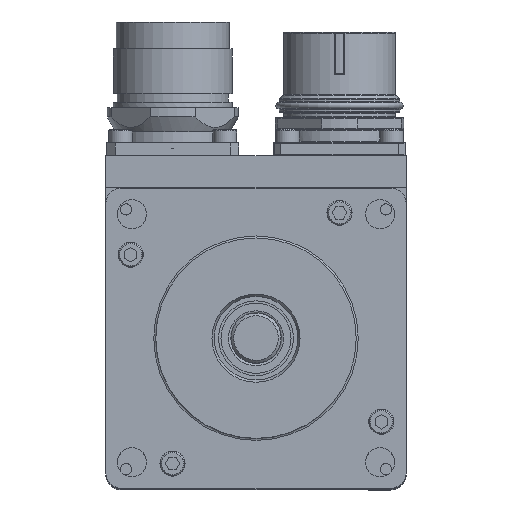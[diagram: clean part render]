
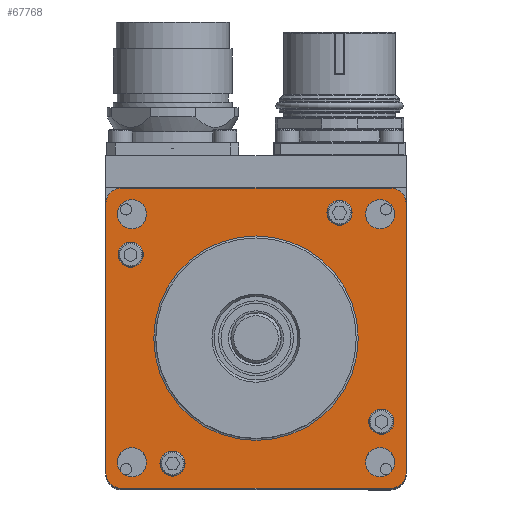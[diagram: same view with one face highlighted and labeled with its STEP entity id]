
A CAD part, top view. The second image highlights one B-rep face of the part: STEP entity #67768.
In plain terms, the highlighted planar face has unit normal (0, 0, 1).
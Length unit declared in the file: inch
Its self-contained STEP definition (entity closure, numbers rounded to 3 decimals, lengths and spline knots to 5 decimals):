
#66858=CARTESIAN_POINT('',(0.92808,0.81908,2.465));
#66859=VERTEX_POINT('',#66858);
#66860=CARTESIAN_POINT('',(0.92808,0.92808,2.465));
#66861=DIRECTION('',(0.0,0.0,-1.0));
#66862=DIRECTION('',(0.0,-1.0,0.0));
#66863=AXIS2_PLACEMENT_3D('',#66860,#66861,#66862);
#66864=CIRCLE('',#66863,0.109);
#66865=EDGE_CURVE('',#66859,#66859,#66864,.T.);
#66899=CARTESIAN_POINT('',(0.81908,-0.92808,2.465));
#66900=VERTEX_POINT('',#66899);
#66901=CARTESIAN_POINT('',(0.92808,-0.92808,2.465));
#66902=DIRECTION('',(0.0,0.0,-1.0));
#66903=DIRECTION('',(-1.0,0.0,0.0));
#66904=AXIS2_PLACEMENT_3D('',#66901,#66902,#66903);
#66905=CIRCLE('',#66904,0.109);
#66906=EDGE_CURVE('',#66900,#66900,#66905,.T.);
#66940=CARTESIAN_POINT('',(-0.92808,-0.81908,2.465));
#66941=VERTEX_POINT('',#66940);
#66942=CARTESIAN_POINT('',(-0.92808,-0.92808,2.465));
#66943=DIRECTION('',(0.0,0.0,-1.0));
#66944=DIRECTION('',(0.0,1.0,0.0));
#66945=AXIS2_PLACEMENT_3D('',#66942,#66943,#66944);
#66946=CIRCLE('',#66945,0.109);
#66947=EDGE_CURVE('',#66941,#66941,#66946,.T.);
#66981=CARTESIAN_POINT('',(-0.81908,0.92808,2.465));
#66982=VERTEX_POINT('',#66981);
#66983=CARTESIAN_POINT('',(-0.92808,0.92808,2.465));
#66984=DIRECTION('',(0.0,0.0,-1.0));
#66985=DIRECTION('',(1.0,0.0,0.0));
#66986=AXIS2_PLACEMENT_3D('',#66983,#66984,#66985);
#66987=CIRCLE('',#66986,0.109);
#66988=EDGE_CURVE('',#66982,#66982,#66987,.T.);
#67039=CARTESIAN_POINT('',(0.62507,0.84396,2.465));
#67040=VERTEX_POINT('',#67039);
#67041=CARTESIAN_POINT('',(0.62507,0.93796,2.465));
#67042=DIRECTION('',(0.0,0.0,-1.0));
#67043=DIRECTION('',(0.0,-1.0,0.0));
#67044=AXIS2_PLACEMENT_3D('',#67041,#67042,#67043);
#67045=CIRCLE('',#67044,0.094);
#67046=EDGE_CURVE('',#67040,#67040,#67045,.T.);
#67140=CARTESIAN_POINT('',(0.84396,-0.62507,2.465));
#67141=VERTEX_POINT('',#67140);
#67142=CARTESIAN_POINT('',(0.93796,-0.62507,2.465));
#67143=DIRECTION('',(0.0,0.0,-1.0));
#67144=DIRECTION('',(-1.0,0.0,0.0));
#67145=AXIS2_PLACEMENT_3D('',#67142,#67143,#67144);
#67146=CIRCLE('',#67145,0.094);
#67147=EDGE_CURVE('',#67141,#67141,#67146,.T.);
#67241=CARTESIAN_POINT('',(-0.62507,-0.84396,2.465));
#67242=VERTEX_POINT('',#67241);
#67243=CARTESIAN_POINT('',(-0.62507,-0.93796,2.465));
#67244=DIRECTION('',(0.0,0.0,-1.0));
#67245=DIRECTION('',(0.0,1.0,0.0));
#67246=AXIS2_PLACEMENT_3D('',#67243,#67244,#67245);
#67247=CIRCLE('',#67246,0.094);
#67248=EDGE_CURVE('',#67242,#67242,#67247,.T.);
#67342=CARTESIAN_POINT('',(-0.84396,0.62507,2.465));
#67343=VERTEX_POINT('',#67342);
#67344=CARTESIAN_POINT('',(-0.93796,0.62507,2.465));
#67345=DIRECTION('',(0.0,0.0,-1.0));
#67346=DIRECTION('',(1.0,0.0,0.0));
#67347=AXIS2_PLACEMENT_3D('',#67344,#67345,#67346);
#67348=CIRCLE('',#67347,0.094);
#67349=EDGE_CURVE('',#67343,#67343,#67348,.T.);
#67643=CARTESIAN_POINT('',(0.,0.765,2.465));
#67644=VERTEX_POINT('',#67643);
#67645=CARTESIAN_POINT('',(0.,0.,2.465));
#67646=DIRECTION('',(0.0,0.0,1.0));
#67647=DIRECTION('',(0.0,1.0,0.0));
#67648=AXIS2_PLACEMENT_3D('',#67645,#67646,#67647);
#67649=CIRCLE('',#67648,0.765);
#67650=EDGE_CURVE('',#67644,#67644,#67649,.T.);
#67666=CARTESIAN_POINT('',(0.,1.2575,2.465));
#67667=DIRECTION('',(0.0,0.0,-1.0));
#67668=DIRECTION('',(-1.0,0.0,0.0));
#67669=AXIS2_PLACEMENT_3D('',#67666,#67667,#67668);
#67670=PLANE('',#67669);
#67671=CARTESIAN_POINT('',(1.005,-1.1239,2.465));
#67672=VERTEX_POINT('',#67671);
#67673=CARTESIAN_POINT('',(-1.005,-1.1239,2.465));
#67674=VERTEX_POINT('',#67673);
#67675=CARTESIAN_POINT('',(1.005,-1.1239,2.465));
#67676=DIRECTION('',(-1.0,0.0,0.0));
#67677=VECTOR('',#67676,2.01);
#67678=LINE('',#67675,#67677);
#67679=EDGE_CURVE('',#67672,#67674,#67678,.T.);
#67680=ORIENTED_EDGE('',*,*,#67679,.F.);
#67681=CARTESIAN_POINT('',(1.1239,-1.005,2.465));
#67682=VERTEX_POINT('',#67681);
#67683=CARTESIAN_POINT('',(1.005,-1.005,2.465));
#67684=DIRECTION('',(0.0,0.0,-1.0));
#67685=DIRECTION('',(0.0,-1.0,0.0));
#67686=AXIS2_PLACEMENT_3D('',#67683,#67684,#67685);
#67687=CIRCLE('',#67686,0.1189);
#67688=EDGE_CURVE('',#67682,#67672,#67687,.T.);
#67689=ORIENTED_EDGE('',*,*,#67688,.F.);
#67690=CARTESIAN_POINT('',(1.1239,1.005,2.465));
#67691=VERTEX_POINT('',#67690);
#67692=CARTESIAN_POINT('',(1.1239,1.005,2.465));
#67693=DIRECTION('',(0.0,-1.0,0.0));
#67694=VECTOR('',#67693,2.01);
#67695=LINE('',#67692,#67694);
#67696=EDGE_CURVE('',#67691,#67682,#67695,.T.);
#67697=ORIENTED_EDGE('',*,*,#67696,.F.);
#67698=CARTESIAN_POINT('',(1.005,1.1239,2.465));
#67699=VERTEX_POINT('',#67698);
#67700=CARTESIAN_POINT('',(1.005,1.005,2.465));
#67701=DIRECTION('',(0.0,0.0,-1.0));
#67702=DIRECTION('',(1.0,0.0,0.0));
#67703=AXIS2_PLACEMENT_3D('',#67700,#67701,#67702);
#67704=CIRCLE('',#67703,0.1189);
#67705=EDGE_CURVE('',#67699,#67691,#67704,.T.);
#67706=ORIENTED_EDGE('',*,*,#67705,.F.);
#67707=CARTESIAN_POINT('',(-1.005,1.1239,2.465));
#67708=VERTEX_POINT('',#67707);
#67709=CARTESIAN_POINT('',(-1.005,1.1239,2.465));
#67710=DIRECTION('',(1.0,0.0,0.0));
#67711=VECTOR('',#67710,2.01);
#67712=LINE('',#67709,#67711);
#67713=EDGE_CURVE('',#67708,#67699,#67712,.T.);
#67714=ORIENTED_EDGE('',*,*,#67713,.F.);
#67715=CARTESIAN_POINT('',(-1.1239,1.005,2.465));
#67716=VERTEX_POINT('',#67715);
#67717=CARTESIAN_POINT('',(-1.005,1.005,2.465));
#67718=DIRECTION('',(0.0,0.0,-1.0));
#67719=DIRECTION('',(0.0,1.0,0.0));
#67720=AXIS2_PLACEMENT_3D('',#67717,#67718,#67719);
#67721=CIRCLE('',#67720,0.1189);
#67722=EDGE_CURVE('',#67716,#67708,#67721,.T.);
#67723=ORIENTED_EDGE('',*,*,#67722,.F.);
#67724=CARTESIAN_POINT('',(-1.1239,-1.005,2.465));
#67725=VERTEX_POINT('',#67724);
#67726=CARTESIAN_POINT('',(-1.1239,-1.005,2.465));
#67727=DIRECTION('',(0.0,1.0,0.0));
#67728=VECTOR('',#67727,2.01);
#67729=LINE('',#67726,#67728);
#67730=EDGE_CURVE('',#67725,#67716,#67729,.T.);
#67731=ORIENTED_EDGE('',*,*,#67730,.F.);
#67732=CARTESIAN_POINT('',(-1.005,-1.005,2.465));
#67733=DIRECTION('',(0.0,0.0,-1.0));
#67734=DIRECTION('',(-1.0,0.0,0.0));
#67735=AXIS2_PLACEMENT_3D('',#67732,#67733,#67734);
#67736=CIRCLE('',#67735,0.1189);
#67737=EDGE_CURVE('',#67674,#67725,#67736,.T.);
#67738=ORIENTED_EDGE('',*,*,#67737,.F.);
#67739=EDGE_LOOP('',(#67680,#67689,#67697,#67706,#67714,#67723,#67731,#67738));
#67740=FACE_OUTER_BOUND('',#67739,.T.);
#67741=ORIENTED_EDGE('',*,*,#66865,.T.);
#67742=EDGE_LOOP('',(#67741));
#67743=FACE_BOUND('',#67742,.T.);
#67744=ORIENTED_EDGE('',*,*,#66906,.T.);
#67745=EDGE_LOOP('',(#67744));
#67746=FACE_BOUND('',#67745,.T.);
#67747=ORIENTED_EDGE('',*,*,#66947,.T.);
#67748=EDGE_LOOP('',(#67747));
#67749=FACE_BOUND('',#67748,.T.);
#67750=ORIENTED_EDGE('',*,*,#66988,.T.);
#67751=EDGE_LOOP('',(#67750));
#67752=FACE_BOUND('',#67751,.T.);
#67753=ORIENTED_EDGE('',*,*,#67046,.T.);
#67754=EDGE_LOOP('',(#67753));
#67755=FACE_BOUND('',#67754,.T.);
#67756=ORIENTED_EDGE('',*,*,#67147,.T.);
#67757=EDGE_LOOP('',(#67756));
#67758=FACE_BOUND('',#67757,.T.);
#67759=ORIENTED_EDGE('',*,*,#67248,.T.);
#67760=EDGE_LOOP('',(#67759));
#67761=FACE_BOUND('',#67760,.T.);
#67762=ORIENTED_EDGE('',*,*,#67349,.T.);
#67763=EDGE_LOOP('',(#67762));
#67764=FACE_BOUND('',#67763,.T.);
#67765=ORIENTED_EDGE('',*,*,#67650,.F.);
#67766=EDGE_LOOP('',(#67765));
#67767=FACE_BOUND('',#67766,.T.);
#67768=ADVANCED_FACE('',(#67740,#67743,#67746,#67749,#67752,#67755,#67758,#67761,#67764,#67767),#67670,.F.);
